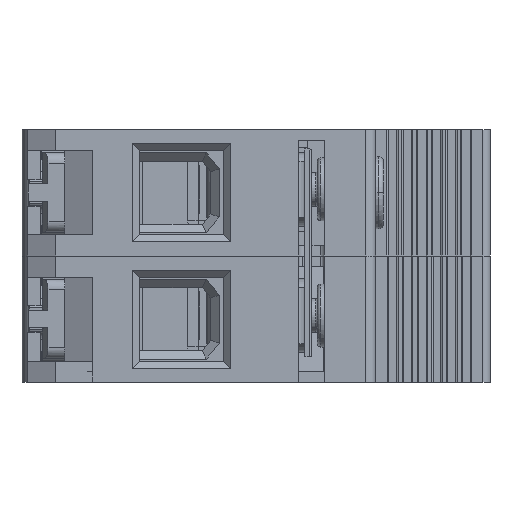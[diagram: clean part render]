
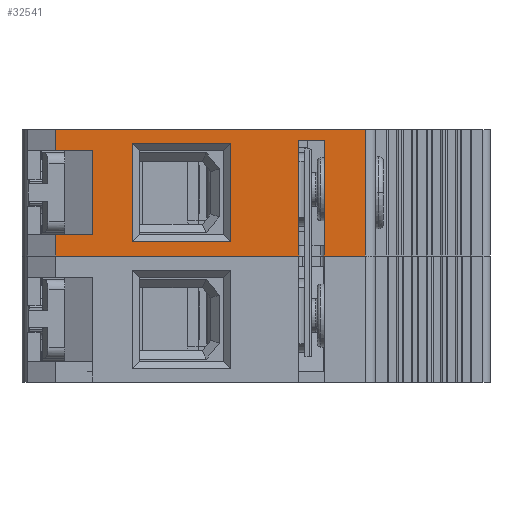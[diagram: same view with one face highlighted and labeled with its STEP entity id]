
A CAD part, left-side view. The second image highlights one B-rep face of the part: STEP entity #32541.
In plain terms, the highlighted planar face has unit normal (-1, 0, 0).
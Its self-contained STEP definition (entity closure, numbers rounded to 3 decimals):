
#353=DIRECTION('',(0.,-1.,0.));
#354=VECTOR('',#353,5.85);
#355=CARTESIAN_POINT('',(0.,7.35,-18.));
#356=LINE('',#355,#354);
#1719=DIRECTION('',(0.,1.,0.));
#1720=VECTOR('',#1719,44.1);
#1721=CARTESIAN_POINT('',(0.,1.5,0.));
#1722=LINE('',#1721,#1720);
#1872=DIRECTION('',(0.,0.,1.));
#1873=VECTOR('',#1872,18.);
#1874=CARTESIAN_POINT('',(0.,1.5,-18.));
#1875=LINE('',#1874,#1873);
#1880=DIRECTION('',(0.,1.,0.));
#1881=VECTOR('',#1880,34.65);
#1882=CARTESIAN_POINT('',(0.,10.95,-18.));
#1883=LINE('',#1882,#1881);
#1884=DIRECTION('',(0.,0.,1.));
#1885=VECTOR('',#1884,12.);
#1886=CARTESIAN_POINT('',(0.,40.3,-15.));
#1887=LINE('',#1886,#1885);
#1888=DIRECTION('',(0.,1.,0.));
#1889=VECTOR('',#1888,5.3);
#1890=CARTESIAN_POINT('',(0.,40.3,-3.));
#1891=LINE('',#1890,#1889);
#1892=DIRECTION('',(0.,0.,1.));
#1893=VECTOR('',#1892,3.);
#1894=CARTESIAN_POINT('',(0.,45.6,-3.));
#1895=LINE('',#1894,#1893);
#1896=DIRECTION('',(0.,1.,0.));
#1897=VECTOR('',#1896,3.6);
#1898=CARTESIAN_POINT('',(0.,7.35,-1.5));
#1899=LINE('',#1898,#1897);
#1900=DIRECTION('',(0.,0.,-1.));
#1901=VECTOR('',#1900,16.5);
#1902=CARTESIAN_POINT('',(0.,10.95,-1.5));
#1903=LINE('',#1902,#1901);
#1904=DIRECTION('',(0.,-1.,0.));
#1905=VECTOR('',#1904,14.);
#1906=CARTESIAN_POINT('',(0.,34.7,-16.));
#1907=LINE('',#1906,#1905);
#1908=DIRECTION('',(0.,0.,1.));
#1909=VECTOR('',#1908,14.);
#1910=CARTESIAN_POINT('',(0.,20.7,-16.));
#1911=LINE('',#1910,#1909);
#1912=DIRECTION('',(0.,1.,0.));
#1913=VECTOR('',#1912,14.);
#1914=CARTESIAN_POINT('',(0.,20.7,-2.));
#1915=LINE('',#1914,#1913);
#1916=DIRECTION('',(0.,0.,-1.));
#1917=VECTOR('',#1916,3.);
#1918=CARTESIAN_POINT('',(0.,45.6,-15.));
#1919=LINE('',#1918,#1917);
#1920=DIRECTION('',(0.,1.,0.));
#1921=VECTOR('',#1920,5.3);
#1922=CARTESIAN_POINT('',(0.,40.3,-15.));
#1923=LINE('',#1922,#1921);
#7411=DIRECTION('',(0.,0.,-1.));
#7412=VECTOR('',#7411,16.5);
#7413=CARTESIAN_POINT('',(0.,7.35,-1.5));
#7414=LINE('',#7413,#7412);
#9136=DIRECTION('',(0.,0.,1.));
#9137=VECTOR('',#9136,14.);
#9138=CARTESIAN_POINT('',(0.,34.7,-16.));
#9139=LINE('',#9138,#9137);
#23884=CARTESIAN_POINT('',(0.,7.35,-18.));
#23886=VERTEX_POINT('',#23884);
#23887=CARTESIAN_POINT('',(0.,1.5,-18.));
#23888=VERTEX_POINT('',#23887);
#23908=CARTESIAN_POINT('',(0.,10.95,-18.));
#23910=VERTEX_POINT('',#23908);
#24026=CARTESIAN_POINT('',(0.,1.5,0.));
#24028=VERTEX_POINT('',#24026);
#24029=CARTESIAN_POINT('',(0.,45.6,0.));
#24030=VERTEX_POINT('',#24029);
#24933=CARTESIAN_POINT('',(0.,10.95,-1.5));
#24934=VERTEX_POINT('',#24933);
#24935=CARTESIAN_POINT('',(0.,7.35,-1.5));
#24936=VERTEX_POINT('',#24935);
#25043=CARTESIAN_POINT('',(0.,34.7,-16.));
#25044=VERTEX_POINT('',#25043);
#25045=CARTESIAN_POINT('',(0.,34.7,-2.));
#25046=VERTEX_POINT('',#25045);
#25047=CARTESIAN_POINT('',(0.,20.7,-16.));
#25048=VERTEX_POINT('',#25047);
#25049=CARTESIAN_POINT('',(0.,40.3,-3.));
#25050=CARTESIAN_POINT('',(0.,45.6,-3.));
#25051=VERTEX_POINT('',#25049);
#25052=VERTEX_POINT('',#25050);
#25053=CARTESIAN_POINT('',(0.,20.7,-2.));
#25054=VERTEX_POINT('',#25053);
#27047=CARTESIAN_POINT('',(0.,45.6,-18.));
#27048=VERTEX_POINT('',#27047);
#27203=CARTESIAN_POINT('',(0.,45.6,-15.));
#27204=VERTEX_POINT('',#27203);
#27611=CARTESIAN_POINT('',(0.,40.3,-15.));
#27612=VERTEX_POINT('',#27611);
#32504=CARTESIAN_POINT('',(0.,50.4,-18.));
#32505=DIRECTION('',(-1.,0.,0.));
#32506=DIRECTION('',(0.,-1.,0.));
#32507=AXIS2_PLACEMENT_3D('',#32504,#32505,#32506);
#32508=PLANE('',#32507);
#32509=ORIENTED_EDGE('',*,*,#30730,.T.);
#32511=ORIENTED_EDGE('',*,*,#32510,.F.);
#32513=ORIENTED_EDGE('',*,*,#32512,.F.);
#32515=ORIENTED_EDGE('',*,*,#32514,.T.);
#32517=ORIENTED_EDGE('',*,*,#32516,.T.);
#32519=ORIENTED_EDGE('',*,*,#32518,.T.);
#32520=ORIENTED_EDGE('',*,*,#32387,.F.);
#32521=ORIENTED_EDGE('',*,*,#32497,.F.);
#32522=ORIENTED_EDGE('',*,*,#30757,.F.);
#32524=ORIENTED_EDGE('',*,*,#32523,.F.);
#32526=ORIENTED_EDGE('',*,*,#32525,.T.);
#32528=ORIENTED_EDGE('',*,*,#32527,.T.);
#32529=EDGE_LOOP('',(#32509,#32511,#32513,#32515,#32517,#32519,#32520,#32521,
#32522,#32524,#32526,#32528));
#32530=FACE_OUTER_BOUND('',#32529,.F.);
#32532=ORIENTED_EDGE('',*,*,#32531,.T.);
#32534=ORIENTED_EDGE('',*,*,#32533,.T.);
#32536=ORIENTED_EDGE('',*,*,#32535,.T.);
#32538=ORIENTED_EDGE('',*,*,#32537,.F.);
#32539=EDGE_LOOP('',(#32532,#32534,#32536,#32538));
#32540=FACE_BOUND('',#32539,.F.);
#32541=ADVANCED_FACE('',(#32530,#32540),#32508,.T.);
#30730=EDGE_CURVE('',#23910,#27048,#1883,.T.);
#30757=EDGE_CURVE('',#23886,#23888,#356,.T.);
#32387=EDGE_CURVE('',#24028,#24030,#1722,.T.);
#32497=EDGE_CURVE('',#23888,#24028,#1875,.T.);
#32510=EDGE_CURVE('',#27204,#27048,#1919,.T.);
#32512=EDGE_CURVE('',#27612,#27204,#1923,.T.);
#32514=EDGE_CURVE('',#27612,#25051,#1887,.T.);
#32516=EDGE_CURVE('',#25051,#25052,#1891,.T.);
#32518=EDGE_CURVE('',#25052,#24030,#1895,.T.);
#32523=EDGE_CURVE('',#24936,#23886,#7414,.T.);
#32525=EDGE_CURVE('',#24936,#24934,#1899,.T.);
#32527=EDGE_CURVE('',#24934,#23910,#1903,.T.);
#32531=EDGE_CURVE('',#25044,#25048,#1907,.T.);
#32533=EDGE_CURVE('',#25048,#25054,#1911,.T.);
#32535=EDGE_CURVE('',#25054,#25046,#1915,.T.);
#32537=EDGE_CURVE('',#25044,#25046,#9139,.T.);
